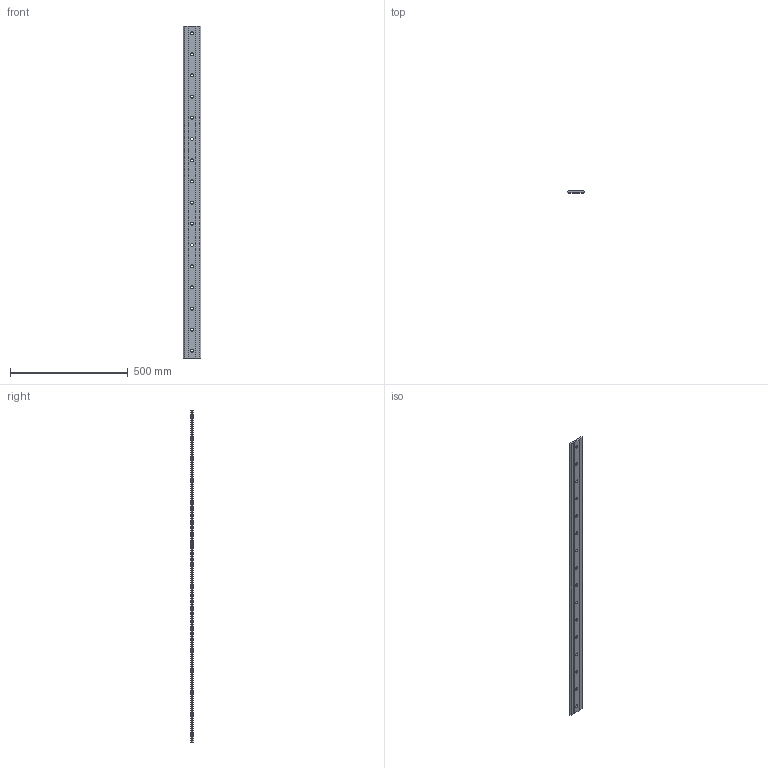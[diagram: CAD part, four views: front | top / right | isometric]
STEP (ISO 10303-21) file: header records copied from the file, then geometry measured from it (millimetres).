
FILE_DESCRIPTION(('STEP AP203'),'1');
FILE_NAME('//192.168.1.1/share/s-4 技術開発/s-4-4_CAD/s-4-4-6_見直し、確認済み/014 修正済み(済)/GF_TOP/GF-76N-1410.step','2022-03-14T00:11:44',(' '),(' '),'Spatial InterOp 3D',' ',' ');
FILE_SCHEMA(('CONFIG_CONTROL_DESIGN'));
Length unit declared in the file: millimetre
Products named in the file (1): 1
Bounding box: 75.94 x 9.43 x 1410 mm (x, y, z)
Volume: 911847.8 mm3; surface area: 230364.3 mm2
Topology: 1 solids, 1 shells, 66 faces, 176 edges, 112 vertices
Faces by surface type: cone 32, cylinder 20, plane 14
Full cylindrical faces by diameter (mm): 11.5 x16
Entity records: 1788 total; most frequent: DIRECTION 318, CARTESIAN_POINT 275, ORIENTED_EDGE 224, EDGE_LOOP 146, AXIS2_PLACEMENT_3D 139, EDGE_CURVE 112, VERTEX_POINT 96, FACE_OUTER_BOUND 82
